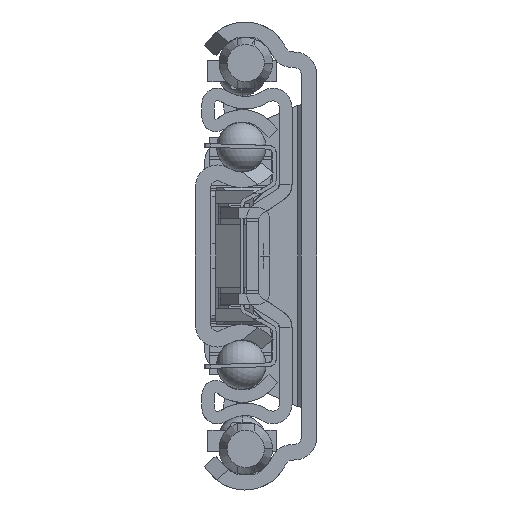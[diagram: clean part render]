
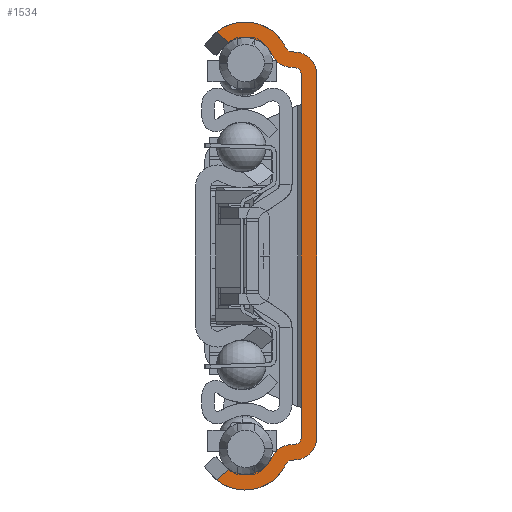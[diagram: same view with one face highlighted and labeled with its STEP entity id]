
A CAD part, left-side view. The second image highlights one B-rep face of the part: STEP entity #1534.
In plain terms, the highlighted planar face has unit normal (-1, 0, 0).
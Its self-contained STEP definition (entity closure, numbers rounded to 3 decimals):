
#1=DIRECTION('',(0.,-0.769,-0.639));
#2=VECTOR('',#1,2.575);
#3=CARTESIAN_POINT('',(0.,16.079,36.021));
#4=LINE('',#3,#2);
#5=CARTESIAN_POINT('',(0.,11.5,30.4));
#6=DIRECTION('',(1.,0.,0.));
#7=DIRECTION('',(0.,0.632,0.775));
#8=AXIS2_PLACEMENT_3D('',#5,#6,#7);
#10=DIRECTION('',(0.,-0.996,-0.087));
#11=VECTOR('',#10,0.904);
#12=CARTESIAN_POINT('',(0.,4.095,32.858));
#13=LINE('',#12,#11);
#14=CARTESIAN_POINT('',(0.,3.5,29.293));
#15=DIRECTION('',(-1.,0.,0.));
#16=DIRECTION('',(0.,-1.,0.));
#17=AXIS2_PLACEMENT_3D('',#14,#15,#16);
#19=DIRECTION('',(0.,0.,-1.));
#20=VECTOR('',#19,58.586);
#21=CARTESIAN_POINT('',(0.,0.,29.293));
#22=LINE('',#21,#20);
#23=CARTESIAN_POINT('',(0.,3.5,-29.293));
#24=DIRECTION('',(-1.,0.,0.));
#25=DIRECTION('',(0.,-0.087,-0.996));
#26=AXIS2_PLACEMENT_3D('',#23,#24,#25);
#28=DIRECTION('',(0.,0.996,-0.087));
#29=VECTOR('',#28,0.904);
#30=CARTESIAN_POINT('',(0.,3.195,-32.78));
#31=LINE('',#30,#29);
#32=CARTESIAN_POINT('',(0.,11.5,-30.4));
#33=DIRECTION('',(1.,0.,0.));
#34=DIRECTION('',(0.,-0.908,-0.419));
#35=AXIS2_PLACEMENT_3D('',#32,#33,#34);
#37=DIRECTION('',(0.,0.769,-0.639));
#38=VECTOR('',#37,2.575);
#39=CARTESIAN_POINT('',(0.,14.098,-34.377));
#40=LINE('',#39,#38);
#41=CARTESIAN_POINT('',(0.,11.5,-30.4));
#42=DIRECTION('',(-1.,0.,0.));
#43=DIRECTION('',(0.,0.547,-0.837));
#44=AXIS2_PLACEMENT_3D('',#41,#42,#43);
#46=CARTESIAN_POINT('',(0.,4.008,-33.854));
#47=DIRECTION('',(-1.,0.,0.));
#48=DIRECTION('',(0.,0.087,0.996));
#49=AXIS2_PLACEMENT_3D('',#46,#47,#48);
#51=DIRECTION('',(0.,-0.996,0.087));
#52=VECTOR('',#51,0.904);
#53=CARTESIAN_POINT('',(0.,4.313,-30.368));
#54=LINE('',#53,#52);
#55=DIRECTION('',(0.,0.,1.));
#56=VECTOR('',#55,58.586);
#57=CARTESIAN_POINT('',(0.,2.5,-29.293));
#58=LINE('',#57,#56);
#59=DIRECTION('',(0.,0.996,0.087));
#60=VECTOR('',#59,0.904);
#61=CARTESIAN_POINT('',(0.,3.413,30.289));
#62=LINE('',#61,#60);
#63=CARTESIAN_POINT('',(0.,4.008,33.854));
#64=DIRECTION('',(-1.,0.,0.));
#65=DIRECTION('',(0.,0.908,-0.419));
#66=AXIS2_PLACEMENT_3D('',#63,#64,#65);
#68=CARTESIAN_POINT('',(0.,11.5,30.4));
#69=DIRECTION('',(-1.,0.,0.));
#70=DIRECTION('',(0.,-0.908,0.419));
#71=AXIS2_PLACEMENT_3D('',#68,#69,#70);
#73=CARTESIAN_POINT('',(0.,14.098,34.377));
#121=CARTESIAN_POINT('',(0.,3.5,29.293));
#122=DIRECTION('',(1.,0.,0.));
#123=DIRECTION('',(0.,-0.087,0.996));
#124=AXIS2_PLACEMENT_3D('',#121,#122,#123);
#704=CARTESIAN_POINT('',(0.,16.079,36.021));
#770=CARTESIAN_POINT('',(0.,16.079,
-36.021));
#824=CARTESIAN_POINT('',(0.,14.098,
-34.377));
#1113=CARTESIAN_POINT('',(0.,3.5,-29.293));
#1114=DIRECTION('',(1.,0.,0.));
#1115=DIRECTION('',(0.,-1.,0.));
#1116=AXIS2_PLACEMENT_3D('',#1113,#1114,#1115);
#1123=CARTESIAN_POINT('',(0.,4.008,-33.854));
#1124=DIRECTION('',(1.,0.,0.));
#1125=DIRECTION('',(0.,0.908,0.419));
#1126=AXIS2_PLACEMENT_3D('',#1123,#1124,#1125);
#1141=CARTESIAN_POINT('',(0.,4.008,33.854));
#1142=DIRECTION('',(1.,0.,0.));
#1143=DIRECTION('',(0.,0.087,-0.996));
#1144=AXIS2_PLACEMENT_3D('',#1141,#1142,#1143);
#1159=CARTESIAN_POINT('',(0.,2.5,-29.293));
#1160=CARTESIAN_POINT('',(0.,2.5,29.293));
#1161=VERTEX_POINT('',#1159);
#1162=VERTEX_POINT('',#1160);
#1163=CARTESIAN_POINT('',(0.,3.413,-30.289));
#1164=VERTEX_POINT('',#1163);
#1165=CARTESIAN_POINT('',(0.,3.413,30.289));
#1166=VERTEX_POINT('',#1165);
#1167=CARTESIAN_POINT('',(0.,4.095,32.858));
#1168=CARTESIAN_POINT('',(0.,4.916,33.436));
#1169=VERTEX_POINT('',#1167);
#1170=VERTEX_POINT('',#1168);
#1171=CARTESIAN_POINT('',(0.,4.916,-33.436));
#1172=CARTESIAN_POINT('',(0.,4.095,-32.858));
#1173=VERTEX_POINT('',#1171);
#1174=VERTEX_POINT('',#1172);
#1175=CARTESIAN_POINT('',(0.,4.313,-30.368));
#1176=CARTESIAN_POINT('',(0.,7.186,-32.389));
#1177=VERTEX_POINT('',#1175);
#1178=VERTEX_POINT('',#1176);
#1179=CARTESIAN_POINT('',(0.,7.186,32.389));
#1180=CARTESIAN_POINT('',(0.,4.313,30.368));
#1181=VERTEX_POINT('',#1179);
#1182=VERTEX_POINT('',#1180);
#1183=CARTESIAN_POINT('',(0.,0.,29.293));
#1184=CARTESIAN_POINT('',(0.,3.195,
32.78));
#1185=VERTEX_POINT('',#1183);
#1186=VERTEX_POINT('',#1184);
#1187=CARTESIAN_POINT('',(0.,3.195,-32.78));
#1188=CARTESIAN_POINT('',(0.,0.,-29.293));
#1189=VERTEX_POINT('',#1187);
#1190=VERTEX_POINT('',#1188);
#1437=VERTEX_POINT('',#73);
#1445=VERTEX_POINT('',#704);
#1446=VERTEX_POINT('',#770);
#1454=VERTEX_POINT('',#824);
#1487=CARTESIAN_POINT('',(0.,0.,0.));
#1488=DIRECTION('',(1.,0.,0.));
#1489=DIRECTION('',(0.,-1.,0.));
#1490=AXIS2_PLACEMENT_3D('',#1487,#1488,#1489);
#1491=PLANE('',#1490);
#1493=ORIENTED_EDGE('',*,*,#1492,.F.);
#1495=ORIENTED_EDGE('',*,*,#1494,.T.);
#1497=ORIENTED_EDGE('',*,*,#1496,.F.);
#1499=ORIENTED_EDGE('',*,*,#1498,.T.);
#1501=ORIENTED_EDGE('',*,*,#1500,.F.);
#1503=ORIENTED_EDGE('',*,*,#1502,.T.);
#1505=ORIENTED_EDGE('',*,*,#1504,.F.);
#1507=ORIENTED_EDGE('',*,*,#1506,.T.);
#1509=ORIENTED_EDGE('',*,*,#1508,.F.);
#1511=ORIENTED_EDGE('',*,*,#1510,.T.);
#1513=ORIENTED_EDGE('',*,*,#1512,.F.);
#1515=ORIENTED_EDGE('',*,*,#1514,.T.);
#1517=ORIENTED_EDGE('',*,*,#1516,.F.);
#1519=ORIENTED_EDGE('',*,*,#1518,.T.);
#1521=ORIENTED_EDGE('',*,*,#1520,.F.);
#1523=ORIENTED_EDGE('',*,*,#1522,.T.);
#1525=ORIENTED_EDGE('',*,*,#1524,.F.);
#1527=ORIENTED_EDGE('',*,*,#1526,.T.);
#1529=ORIENTED_EDGE('',*,*,#1528,.F.);
#1531=ORIENTED_EDGE('',*,*,#1530,.T.);
#1532=EDGE_LOOP('',(#1493,#1495,#1497,#1499,#1501,#1503,#1505,#1507,#1509,#1511,
#1513,#1515,#1517,#1519,#1521,#1523,#1525,#1527,#1529,#1531));
#1533=FACE_OUTER_BOUND('',#1532,.F.);
#9=CIRCLE('',#8,7.25);
#18=CIRCLE('',#17,3.5);
#27=CIRCLE('',#26,3.5);
#36=CIRCLE('',#35,7.25);
#45=CIRCLE('',#44,4.75);
#50=CIRCLE('',#49,3.5);
#67=CIRCLE('',#66,3.5);
#72=CIRCLE('',#71,4.75);
#125=CIRCLE('',#124,1.);
#1117=CIRCLE('',#1116,1.);
#1127=CIRCLE('',#1126,1.);
#1145=CIRCLE('',#1144,1.);
#1492=EDGE_CURVE('',#1445,#1437,#4,.T.);
#1494=EDGE_CURVE('',#1445,#1170,#9,.T.);
#1496=EDGE_CURVE('',#1169,#1170,#1145,.T.);
#1498=EDGE_CURVE('',#1169,#1186,#13,.T.);
#1500=EDGE_CURVE('',#1185,#1186,#18,.T.);
#1502=EDGE_CURVE('',#1185,#1190,#22,.T.);
#1504=EDGE_CURVE('',#1189,#1190,#27,.T.);
#1506=EDGE_CURVE('',#1189,#1174,#31,.T.);
#1508=EDGE_CURVE('',#1173,#1174,#1127,.T.);
#1510=EDGE_CURVE('',#1173,#1446,#36,.T.);
#1512=EDGE_CURVE('',#1454,#1446,#40,.T.);
#1514=EDGE_CURVE('',#1454,#1178,#45,.T.);
#1516=EDGE_CURVE('',#1177,#1178,#50,.T.);
#1518=EDGE_CURVE('',#1177,#1164,#54,.T.);
#1520=EDGE_CURVE('',#1161,#1164,#1117,.T.);
#1522=EDGE_CURVE('',#1161,#1162,#58,.T.);
#1524=EDGE_CURVE('',#1166,#1162,#125,.T.);
#1526=EDGE_CURVE('',#1166,#1182,#62,.T.);
#1528=EDGE_CURVE('',#1181,#1182,#67,.T.);
#1530=EDGE_CURVE('',#1181,#1437,#72,.T.);
#1534=ADVANCED_FACE('',(#1533),#1491,.F.);
